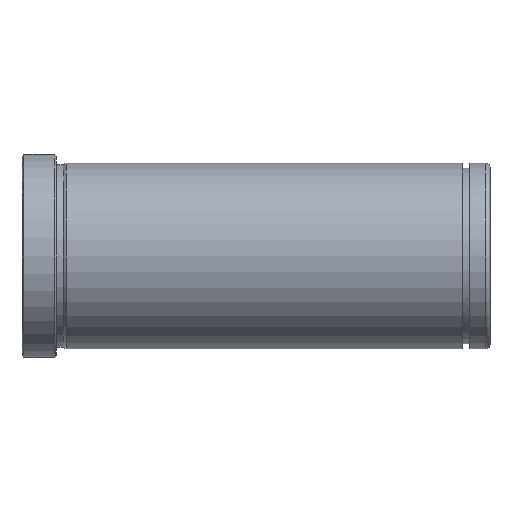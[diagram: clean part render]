
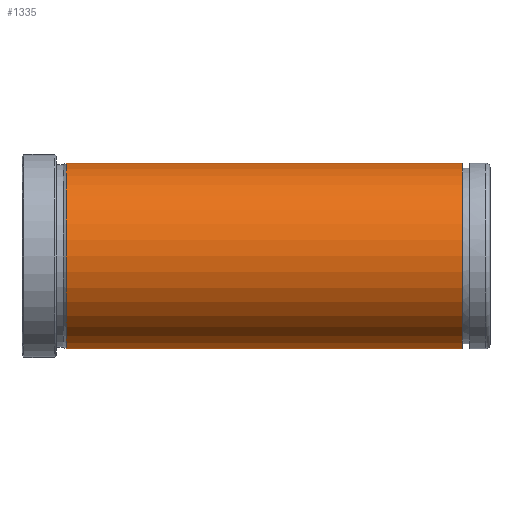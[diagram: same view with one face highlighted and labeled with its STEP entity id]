
A CAD part, front view. The second image highlights one B-rep face of the part: STEP entity #1335.
In plain terms, the highlighted cylindrical face has radius 27 mm (diameter 54 mm), a partial arc.
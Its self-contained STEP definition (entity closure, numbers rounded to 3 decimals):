
#1197=CARTESIAN_POINT('Vertex',(128.,0.,27.)) ;
#1200=CARTESIAN_POINT('Axis2P3D Location',(128.,0.,0.)) ;
#1204=CARTESIAN_POINT('Vertex',(128.,-27.,0.)) ;
#1207=CARTESIAN_POINT('Axis2P3D Location',(128.,0.,0.)) ;
#1211=CARTESIAN_POINT('Vertex',(128.,0.,-27.)) ;
#1241=CARTESIAN_POINT('Vertex',(12.866,0.,-27.)) ;
#1248=CARTESIAN_POINT('Vertex',(12.866,0.,27.)) ;
#1277=CARTESIAN_POINT('Axis2P3D Location',(12.866,0.,0.)) ;
#1281=CARTESIAN_POINT('Vertex',(12.866,-27.,0.)) ;
#1284=CARTESIAN_POINT('Axis2P3D Location',(12.866,0.,0.)) ;
#1303=CARTESIAN_POINT('Line Origine',(272.,0.,27.)) ;
#1308=CARTESIAN_POINT('Line Origine',(272.,0.,-27.)) ;
#1322=CARTESIAN_POINT('Axis2P3D Location',(272.,0.,0.)) ;
#1201=DIRECTION('Axis2P3D Direction',(1.,0.,-0.)) ;
#1208=DIRECTION('Axis2P3D Direction',(1.,0.,-0.)) ;
#1278=DIRECTION('Axis2P3D Direction',(1.,0.,-0.)) ;
#1285=DIRECTION('Axis2P3D Direction',(1.,0.,-0.)) ;
#1304=DIRECTION('Vector Direction',(-1.,0.,0.)) ;
#1309=DIRECTION('Vector Direction',(-1.,0.,0.)) ;
#1323=DIRECTION('Axis2P3D Direction',(-1.,-0.,-0.)) ;
#1324=DIRECTION('Axis2P3D XDirection',(0.,0.,-1.)) ;
#1202=AXIS2_PLACEMENT_3D('Circle Axis2P3D',#1200,#1201,$) ;
#1209=AXIS2_PLACEMENT_3D('Circle Axis2P3D',#1207,#1208,$) ;
#1279=AXIS2_PLACEMENT_3D('Circle Axis2P3D',#1277,#1278,$) ;
#1286=AXIS2_PLACEMENT_3D('Circle Axis2P3D',#1284,#1285,$) ;
#1325=AXIS2_PLACEMENT_3D('Cylinder Axis2P3D',#1322,#1323,#1324) ;
#1328=ORIENTED_EDGE('',*,*,#1312,.T.) ;
#1329=ORIENTED_EDGE('',*,*,#1213,.F.) ;
#1330=ORIENTED_EDGE('',*,*,#1206,.F.) ;
#1331=ORIENTED_EDGE('',*,*,#1307,.T.) ;
#1332=ORIENTED_EDGE('',*,*,#1288,.T.) ;
#1333=ORIENTED_EDGE('',*,*,#1283,.T.) ;
#1305=VECTOR('Line Direction',#1304,1.) ;
#1310=VECTOR('Line Direction',#1309,1.) ;
#1335=ADVANCED_FACE('553-42X136',(#1334),#1326,.T.) ;
#1203=CIRCLE('generated circle',#1202,27.) ;
#1210=CIRCLE('generated circle',#1209,27.) ;
#1280=CIRCLE('generated circle',#1279,27.) ;
#1287=CIRCLE('generated circle',#1286,27.) ;
#1326=CYLINDRICAL_SURFACE('generated cylinder',#1325,27.) ;
#1206=EDGE_CURVE('',#1198,#1205,#1203,.T.) ;
#1213=EDGE_CURVE('',#1205,#1212,#1210,.T.) ;
#1283=EDGE_CURVE('',#1282,#1242,#1280,.T.) ;
#1288=EDGE_CURVE('',#1249,#1282,#1287,.T.) ;
#1307=EDGE_CURVE('',#1198,#1249,#1306,.T.) ;
#1312=EDGE_CURVE('',#1242,#1212,#1311,.F.) ;
#1327=EDGE_LOOP('',(#1328,#1329,#1330,#1331,#1332,#1333)) ;
#1334=FACE_OUTER_BOUND('',#1327,.T.) ;
#1306=LINE('Line',#1303,#1305) ;
#1311=LINE('Line',#1308,#1310) ;
#1198=VERTEX_POINT('',#1197) ;
#1205=VERTEX_POINT('',#1204) ;
#1212=VERTEX_POINT('',#1211) ;
#1242=VERTEX_POINT('',#1241) ;
#1249=VERTEX_POINT('',#1248) ;
#1282=VERTEX_POINT('',#1281) ;
